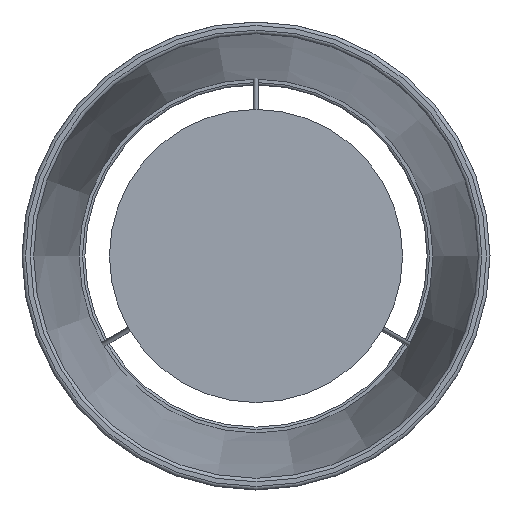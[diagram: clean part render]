
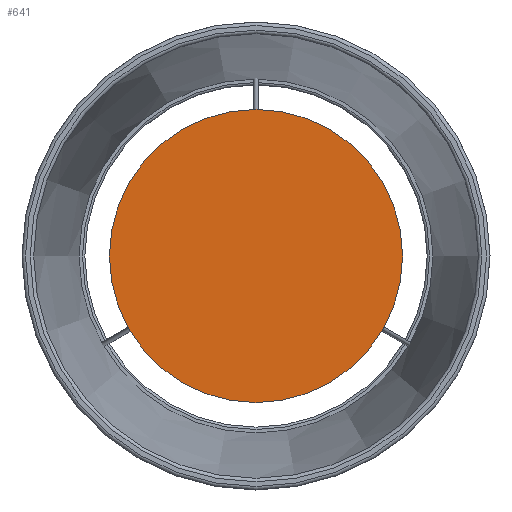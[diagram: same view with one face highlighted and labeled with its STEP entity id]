
A CAD part, front view. The second image highlights one B-rep face of the part: STEP entity #641.
In plain terms, the highlighted planar face has unit normal (0, -1, 0).
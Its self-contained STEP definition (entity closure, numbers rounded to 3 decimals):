
#80=PLANE('',#737);
#115=FACE_OUTER_BOUND('',#172,.T.);
#172=EDGE_LOOP('',(#497));
#259=CIRCLE('',#735,62.5);
#321=VERTEX_POINT('',#1253);
#385=EDGE_CURVE('',#321,#321,#259,.T.);
#497=ORIENTED_EDGE('',*,*,#385,.F.);
#641=ADVANCED_FACE('',(#115),#80,.F.);
#735=AXIS2_PLACEMENT_3D('',#1255,#901,#902);
#737=AXIS2_PLACEMENT_3D('',#1257,#905,#906);
#901=DIRECTION('center_axis',(0.,1.,0.));
#902=DIRECTION('ref_axis',(1.,0.,0.));
#905=DIRECTION('center_axis',(0.,1.,0.));
#906=DIRECTION('ref_axis',(1.,0.,0.));
#1253=CARTESIAN_POINT('',(-62.5,0.,0.));
#1255=CARTESIAN_POINT('Origin',(0.,0.,0.));
#1257=CARTESIAN_POINT('Origin',(0.,0.,0.));
